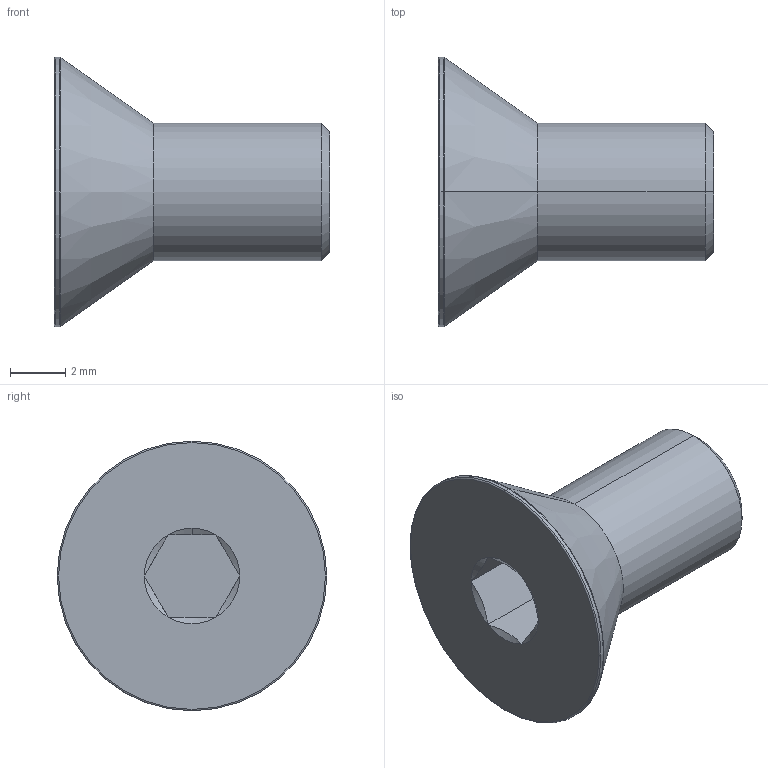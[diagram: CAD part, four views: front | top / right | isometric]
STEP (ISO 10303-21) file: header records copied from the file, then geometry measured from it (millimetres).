
FILE_DESCRIPTION (( 'STEP AP203' ), '1' );
FILE_NAME ('LGDB-304-M5x10.STEP', '2026-08-12T01:35:43', ( '' ), ( '' ), 'SwSTEP 2.0', 'SolidWorks 2020', '' );
FILE_SCHEMA (( 'CONFIG_CONTROL_DESIGN' ));
Length unit declared in the file: millimetre
Products named in the file (1): LGDB-304-M5x10
Bounding box: 10 x 9.8 x 9.8 mm (x, y, z)
Volume: 271.8 mm3; surface area: 320.3 mm2
Topology: 1 solids, 1 shells, 28 faces, 53 edges, 28 vertices
Faces by surface type: cone 11, plane 9, torus 4, cylinder 4
Entity records: 784 total; most frequent: CARTESIAN_POINT 145, DIRECTION 129, ORIENTED_EDGE 106, AXIS2_PLACEMENT_3D 54, EDGE_CURVE 53, EDGE_LOOP 29, FACE_OUTER_BOUND 28, VERTEX_POINT 28
